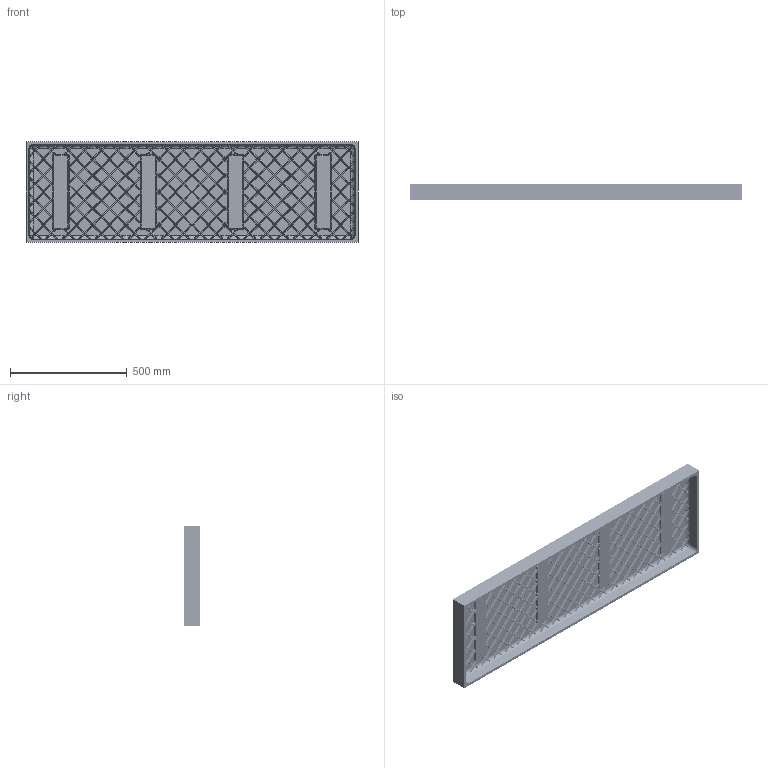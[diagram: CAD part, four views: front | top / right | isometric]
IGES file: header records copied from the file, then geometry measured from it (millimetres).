
Start section: SolidWorks IGES file using analytic representation for surfaces
Global section: file name: C:\Working\1770\1770 OEM drawings 10-07-09\1771-931T-CLR OEM.IGS; native system: SolidWorks 2007; preprocessor: SolidWorks 2007; author: mhakami; date: 091007.132806; units: inch
Bounding box: 1422.39 x 69.85 x 431.79 mm (x, y, z)
Surface area: 1961245.1 mm2 (no closed solid volume)
Topology: 0 solids, 0 shells, 5010 faces, 49725 edges, 49725 vertices
Faces by surface type: revolution 3101, bspline 1909
